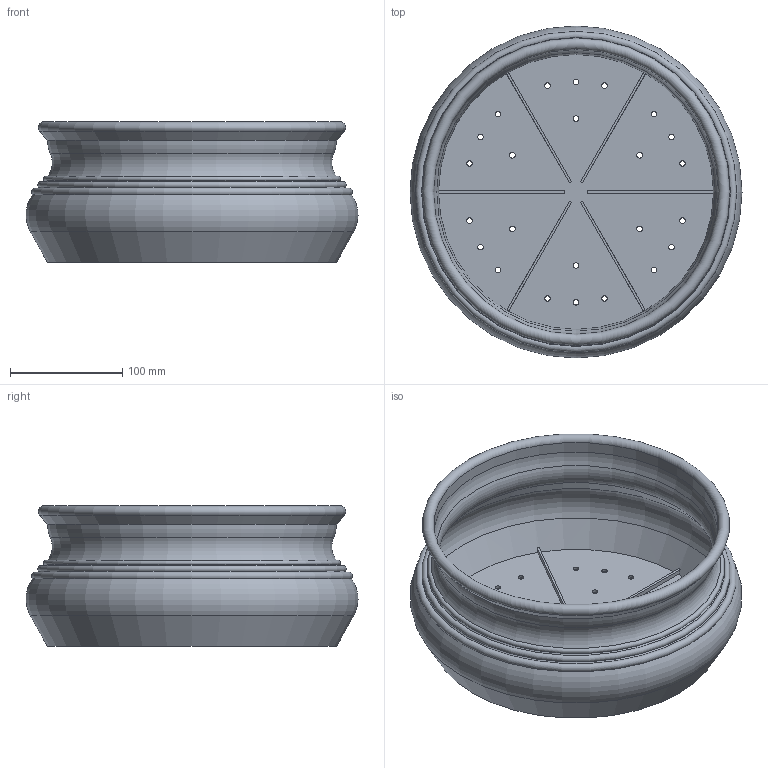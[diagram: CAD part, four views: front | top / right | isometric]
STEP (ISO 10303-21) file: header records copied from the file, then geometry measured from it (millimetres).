
FILE_DESCRIPTION(/* description */ (''),/* implementation_level */ '2;1');
FILE_NAME(/* name */ 'LR2406-S20-H125-D300_step.step',/* time_stamp */ '2024-02-01T11:01:18+01:00',/* author */ (''),/* organization */ (''),/* preprocessor_version */ 'ST-DEVELOPER v20',/* originating_system */ 'Autodesk Translation Framework v12.20.1.177',/* authorisation */ '');
FILE_SCHEMA (('AUTOMOTIVE_DESIGN { 1 0 10303 214 3 1 1 }'));
Length unit declared in the file: millimetre
Products named in the file (1): LR2406-S20-H125-D300
Bounding box: 295.99 x 295.99 x 125 mm (x, y, z)
Volume: 436458.6 mm3; surface area: 353602.8 mm2
Topology: 1 solids, 1 shells, 68 faces, 181 edges, 115 vertices
Faces by surface type: cylinder 31, plane 20, torus 10, cone 7
Full cylindrical faces by diameter (mm): 5 x24, 254 x1
Entity records: 2286 total; most frequent: DIRECTION 420, CARTESIAN_POINT 365, ORIENTED_EDGE 362, EDGE_CURVE 181, AXIS2_PLACEMENT_3D 170, EDGE_LOOP 116, VERTEX_POINT 115, CIRCLE 101
